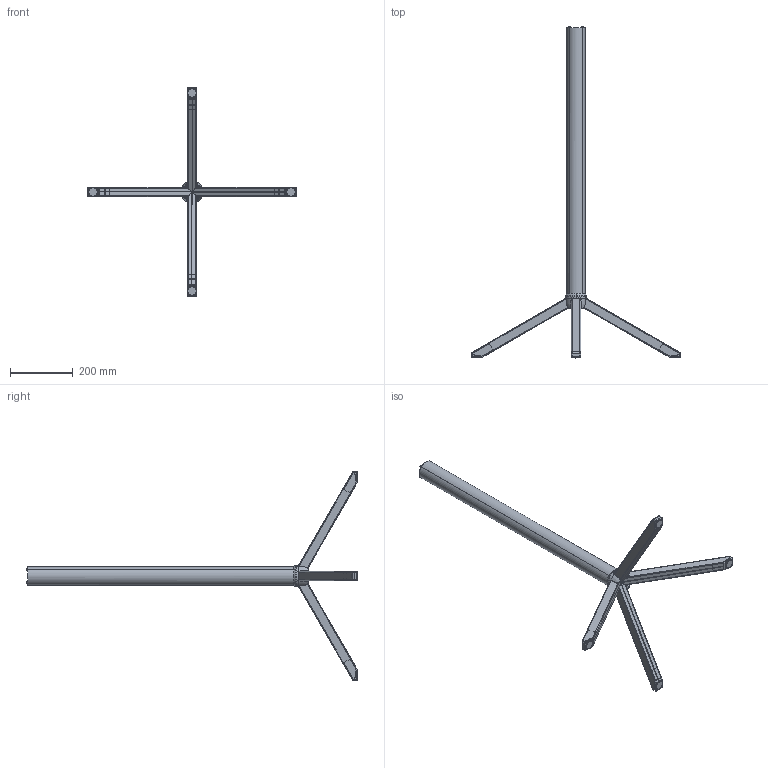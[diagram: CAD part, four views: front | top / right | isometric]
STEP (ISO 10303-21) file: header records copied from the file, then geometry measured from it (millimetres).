
FILE_DESCRIPTION (( 'STEP AP203' ), '1' );
FILE_NAME ('4 Ayak Bar Katlanýr.STEP', '2020-12-18T14:29:53', ( 'PC' ), ( '' ), 'SwSTEP 2.0', 'SolidWorks 2015', '' );
FILE_SCHEMA (( 'CONFIG_CONTROL_DESIGN' ));
Length unit declared in the file: millimetre
Products named in the file (6): 4 Ayak Bar Katlanýr; reg黮at鰎; 4 ayak Cap 60 Göbek; Q60 Masa Borusu; ayak t; 4 AYAK
Assembly tree (14 placements, depth 2):
  4 Ayak Bar Katlanýr
    4 AYAK  x4
    Q60 Masa Borusu
    4 ayak Cap 60 Göbek
    ayak t  x4
    reg黮at鰎  x4
Bounding box: 667 x 1058.19 x 667 mm (x, y, z)
Volume: 500270 mm3; surface area: 711781.3 mm2
Topology: 14 solids, 14 shells, 1291 faces, 3239 edges, 1966 vertices
Faces by surface type: cylinder 516, plane 369, torus 198, bspline 190, cone 10, sphere 8
Entity records: 21351 total; most frequent: CARTESIAN_POINT 10547, ORIENTED_EDGE 2318, DIRECTION 1792, EDGE_CURVE 1159, VERTEX_POINT 712, AXIS2_PLACEMENT_3D 662, LINE 468, VECTOR 468
